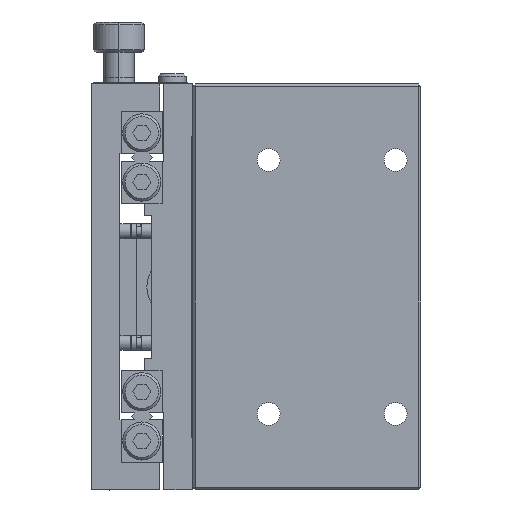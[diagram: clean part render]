
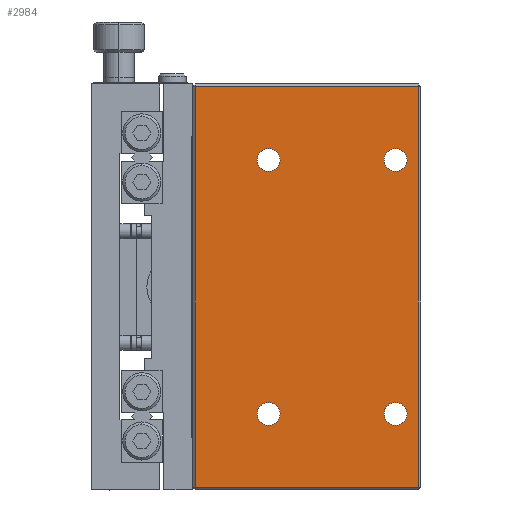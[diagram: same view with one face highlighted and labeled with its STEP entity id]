
A CAD part, front view. The second image highlights one B-rep face of the part: STEP entity #2984.
In plain terms, the highlighted planar face has unit normal (0, -1, 0).
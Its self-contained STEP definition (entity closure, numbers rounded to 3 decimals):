
#2752 = VERTEX_POINT ( 'NONE', #12144 ) ;
#2831 = EDGE_CURVE ( 'NONE', #2752, #2832, #12488, .T. ) ;
#2832 = VERTEX_POINT ( 'NONE', #12483 ) ;
#2984 = ADVANCED_FACE ( 'NONE', ( #12822, #12821, #12820, #12819, #12818 ), #12817, .T. ) ;
#2985 = EDGE_LOOP ( 'NONE', ( #2989, #3595, #3588, #3559 ) ) ;
#2989 = ORIENTED_EDGE ( 'NONE', *, *, #2990, .T. ) ;
#2990 = EDGE_CURVE ( 'NONE', #2991, #3586, #12809, .T. ) ;
#2991 = VERTEX_POINT ( 'NONE', #12904 ) ;
#3037 = EDGE_CURVE ( 'NONE', #3038, #3039, #12917, .T. ) ;
#3038 = VERTEX_POINT ( 'NONE', #12913 ) ;
#3039 = VERTEX_POINT ( 'NONE', #12912 ) ;
#3040 = VERTEX_POINT ( 'NONE', #12911 ) ;
#3154 = EDGE_CURVE ( 'NONE', #3156, #3040, #13214, .T. ) ;
#3156 = VERTEX_POINT ( 'NONE', #13209 ) ;
#3245 = EDGE_CURVE ( 'NONE', #3247, #3248, #13334, .T. ) ;
#3247 = VERTEX_POINT ( 'NONE', #13395 ) ;
#3248 = VERTEX_POINT ( 'NONE', #13394 ) ;
#3559 = ORIENTED_EDGE ( 'NONE', *, *, #3560, .T. ) ;
#3560 = EDGE_CURVE ( 'NONE', #3592, #2991, #14253, .T. ) ;
#3564 = ORIENTED_EDGE ( 'NONE', *, *, #3566, .T. ) ;
#3566 = EDGE_CURVE ( 'NONE', #3039, #3038, #14319, .T. ) ;
#3568 = ORIENTED_EDGE ( 'NONE', *, *, #3037, .T. ) ;
#3570 = EDGE_LOOP ( 'NONE', ( #3572, #3577 ) ) ;
#3572 = ORIENTED_EDGE ( 'NONE', *, *, #3574, .T. ) ;
#3574 = EDGE_CURVE ( 'NONE', #3248, #3247, #14310, .T. ) ;
#3577 = ORIENTED_EDGE ( 'NONE', *, *, #3245, .T. ) ;
#3578 = EDGE_LOOP ( 'NONE', ( #3580, #3647 ) ) ;
#3580 = ORIENTED_EDGE ( 'NONE', *, *, #3582, .T. ) ;
#3582 = EDGE_CURVE ( 'NONE', #3040, #3156, #14298, .T. ) ;
#3586 = VERTEX_POINT ( 'NONE', #14349 ) ;
#3588 = ORIENTED_EDGE ( 'NONE', *, *, #3590, .T. ) ;
#3590 = EDGE_CURVE ( 'NONE', #3634, #3592, #14344, .T. ) ;
#3592 = VERTEX_POINT ( 'NONE', #14339 ) ;
#3593 = EDGE_LOOP ( 'NONE', ( #3564, #3568 ) ) ;
#3595 = ORIENTED_EDGE ( 'NONE', *, *, #3633, .T. ) ;
#3633 = EDGE_CURVE ( 'NONE', #3586, #3634, #14243, .T. ) ;
#3634 = VERTEX_POINT ( 'NONE', #14239 ) ;
#3647 = ORIENTED_EDGE ( 'NONE', *, *, #3154, .T. ) ;
#3649 = EDGE_LOOP ( 'NONE', ( #3651, #3656 ) ) ;
#3651 = ORIENTED_EDGE ( 'NONE', *, *, #3653, .T. ) ;
#3653 = EDGE_CURVE ( 'NONE', #2832, #2752, #14366, .T. ) ;
#3656 = ORIENTED_EDGE ( 'NONE', *, *, #2831, .T. ) ;
#12144 = CARTESIAN_POINT ( 'NONE',  ( 15., 0., 22.75 ) ) ;
#12483 = CARTESIAN_POINT ( 'NONE',  ( 15., 0., 27.25 ) ) ;
#12484 = DIRECTION ( 'NONE',  ( 0., 0., 1. ) ) ;
#12485 = DIRECTION ( 'NONE',  ( 0., 1., 0. ) ) ;
#12486 = CARTESIAN_POINT ( 'NONE',  ( 15., 0., 25. ) ) ;
#12487 = AXIS2_PLACEMENT_3D ( 'NONE', #12486, #12485, #12484 ) ;
#12488 = CIRCLE ( 'NONE', #12487, 2.25 ) ;
#12806 = DIRECTION ( 'NONE',  ( 0., 0., 1. ) ) ;
#12807 = VECTOR ( 'NONE', #12806, 1000. ) ;
#12808 = CARTESIAN_POINT ( 'NONE',  ( 44.5, 0., -40. ) ) ;
#12809 = LINE ( 'NONE', #12808, #12807 ) ;
#12813 = DIRECTION ( 'NONE',  ( 0., 0., -1. ) ) ;
#12814 = DIRECTION ( 'NONE',  ( 0., -1., 0. ) ) ;
#12815 = CARTESIAN_POINT ( 'NONE',  ( 0., 0., -40. ) ) ;
#12816 = AXIS2_PLACEMENT_3D ( 'NONE', #12815, #12814, #12813 ) ;
#12817 = PLANE ( 'NONE',  #12816 ) ;
#12818 = FACE_BOUND ( 'NONE', #3649, .T. ) ;
#12819 = FACE_BOUND ( 'NONE', #3578, .T. ) ;
#12820 = FACE_BOUND ( 'NONE', #3570, .T. ) ;
#12821 = FACE_BOUND ( 'NONE', #3593, .T. ) ;
#12822 = FACE_OUTER_BOUND ( 'NONE', #2985, .T. ) ;
#12904 = CARTESIAN_POINT ( 'NONE',  ( 44.5, 0., -39.5 ) ) ;
#12911 = CARTESIAN_POINT ( 'NONE',  ( 40., 0., 27.25 ) ) ;
#12912 = CARTESIAN_POINT ( 'NONE',  ( 15., 0., -22.75 ) ) ;
#12913 = CARTESIAN_POINT ( 'NONE',  ( 15., 0., -27.25 ) ) ;
#12914 = DIRECTION ( 'NONE',  ( 0., 0., 1. ) ) ;
#12915 = DIRECTION ( 'NONE',  ( 0., 1., 0. ) ) ;
#12916 = AXIS2_PLACEMENT_3D ( 'NONE', #12922, #12915, #12914 ) ;
#12917 = CIRCLE ( 'NONE', #12916, 2.25 ) ;
#12922 = CARTESIAN_POINT ( 'NONE',  ( 15., 0., -25. ) ) ;
#13209 = CARTESIAN_POINT ( 'NONE',  ( 40., 0., 22.75 ) ) ;
#13210 = DIRECTION ( 'NONE',  ( 0., 0., 1. ) ) ;
#13211 = DIRECTION ( 'NONE',  ( 0., 1., 0. ) ) ;
#13212 = CARTESIAN_POINT ( 'NONE',  ( 40., 0., 25. ) ) ;
#13213 = AXIS2_PLACEMENT_3D ( 'NONE', #13212, #13211, #13210 ) ;
#13214 = CIRCLE ( 'NONE', #13213, 2.25 ) ;
#13325 = DIRECTION ( 'NONE',  ( 0., 0., 1. ) ) ;
#13326 = DIRECTION ( 'NONE',  ( 0., 1., 0. ) ) ;
#13327 = CARTESIAN_POINT ( 'NONE',  ( 40., 0., -25. ) ) ;
#13328 = AXIS2_PLACEMENT_3D ( 'NONE', #13327, #13326, #13325 ) ;
#13334 = CIRCLE ( 'NONE', #13328, 2.25 ) ;
#13394 = CARTESIAN_POINT ( 'NONE',  ( 40., 0., -22.75 ) ) ;
#13395 = CARTESIAN_POINT ( 'NONE',  ( 40., 0., -27.25 ) ) ;
#14239 = CARTESIAN_POINT ( 'NONE',  ( 0.5, 0., 39.5 ) ) ;
#14240 = DIRECTION ( 'NONE',  ( -1., 0., 0. ) ) ;
#14241 = VECTOR ( 'NONE', #14240, 1000. ) ;
#14242 = CARTESIAN_POINT ( 'NONE',  ( 0., 0., 39.5 ) ) ;
#14243 = LINE ( 'NONE', #14242, #14241 ) ;
#14250 = DIRECTION ( 'NONE',  ( 1., 0., 0. ) ) ;
#14251 = VECTOR ( 'NONE', #14250, 1000. ) ;
#14252 = CARTESIAN_POINT ( 'NONE',  ( 45., 0., -39.5 ) ) ;
#14253 = LINE ( 'NONE', #14252, #14251 ) ;
#14294 = DIRECTION ( 'NONE',  ( 0., 0., 1. ) ) ;
#14295 = DIRECTION ( 'NONE',  ( 0., 1., 0. ) ) ;
#14296 = CARTESIAN_POINT ( 'NONE',  ( 40., 0., 25. ) ) ;
#14297 = AXIS2_PLACEMENT_3D ( 'NONE', #14296, #14295, #14294 ) ;
#14298 = CIRCLE ( 'NONE', #14297, 2.25 ) ;
#14306 = DIRECTION ( 'NONE',  ( 0., 0., 1. ) ) ;
#14307 = DIRECTION ( 'NONE',  ( 0., 1., 0. ) ) ;
#14308 = CARTESIAN_POINT ( 'NONE',  ( 40., 0., -25. ) ) ;
#14309 = AXIS2_PLACEMENT_3D ( 'NONE', #14308, #14307, #14306 ) ;
#14310 = CIRCLE ( 'NONE', #14309, 2.25 ) ;
#14315 = DIRECTION ( 'NONE',  ( 0., 0., 1. ) ) ;
#14316 = DIRECTION ( 'NONE',  ( 0., 1., 0. ) ) ;
#14317 = CARTESIAN_POINT ( 'NONE',  ( 15., 0., -25. ) ) ;
#14318 = AXIS2_PLACEMENT_3D ( 'NONE', #14317, #14316, #14315 ) ;
#14319 = CIRCLE ( 'NONE', #14318, 2.25 ) ;
#14339 = CARTESIAN_POINT ( 'NONE',  ( 0.5, 0., -39.5 ) ) ;
#14341 = DIRECTION ( 'NONE',  ( 0., 0., -1. ) ) ;
#14342 = VECTOR ( 'NONE', #14341, 1000. ) ;
#14343 = CARTESIAN_POINT ( 'NONE',  ( 0.5, 0., -40. ) ) ;
#14344 = LINE ( 'NONE', #14343, #14342 ) ;
#14349 = CARTESIAN_POINT ( 'NONE',  ( 44.5, 0., 39.5 ) ) ;
#14362 = DIRECTION ( 'NONE',  ( 0., 0., 1. ) ) ;
#14363 = DIRECTION ( 'NONE',  ( 0., 1., 0. ) ) ;
#14364 = CARTESIAN_POINT ( 'NONE',  ( 15., 0., 25. ) ) ;
#14365 = AXIS2_PLACEMENT_3D ( 'NONE', #14364, #14363, #14362 ) ;
#14366 = CIRCLE ( 'NONE', #14365, 2.25 ) ;
